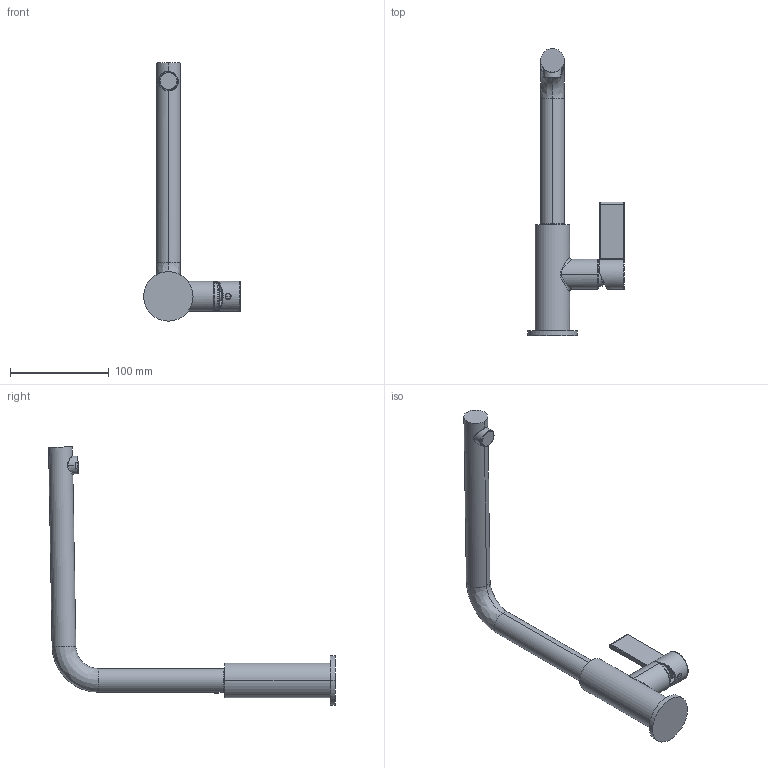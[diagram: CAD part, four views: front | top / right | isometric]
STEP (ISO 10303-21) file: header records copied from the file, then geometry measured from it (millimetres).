
FILE_DESCRIPTION((''),'1');
FILE_NAME('C:/Users/gobbi_m/Desktop/MF22CR2.stp','2020-09-29T15:49:42',(''),(''),'Spatial Interop R21 SP3','Kubotek KeyCreator 2011 V10.5.2 (25411)',' ');
FILE_SCHEMA(('automotive_design'));
Length unit declared in the file: millimetre
Products named in the file (182): Unnamed[1]
Bounding box: 97.8 x 290 x 261.21 mm (x, y, z)
Surface area: 64435.2 mm2 (no closed solid volume)
Topology: 0 solids, 182 shells, 182 faces, 947 edges, 941 vertices
Faces by surface type: cylinder 68, bspline 62, plane 52
Entity records: 22221 total; most frequent: CARTESIAN_POINT 7913, DIRECTION 1731, ORIENTED_EDGE 941, EDGE_CURVE 941, VERTEX_POINT 941, PRESENTATION_STYLE_ASSIGNMENT 728, COLOUR_RGB 728, AXIS2_PLACEMENT_3D 687
